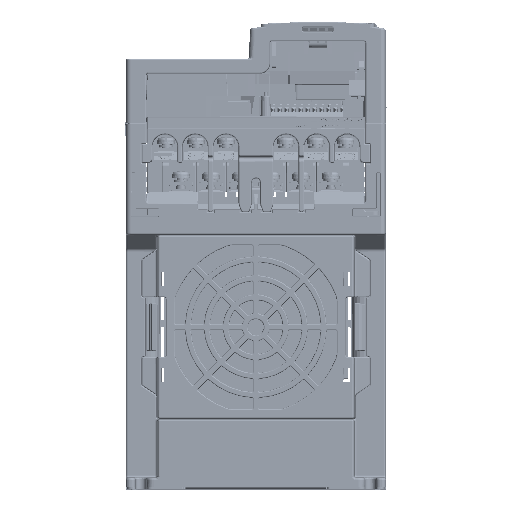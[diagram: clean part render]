
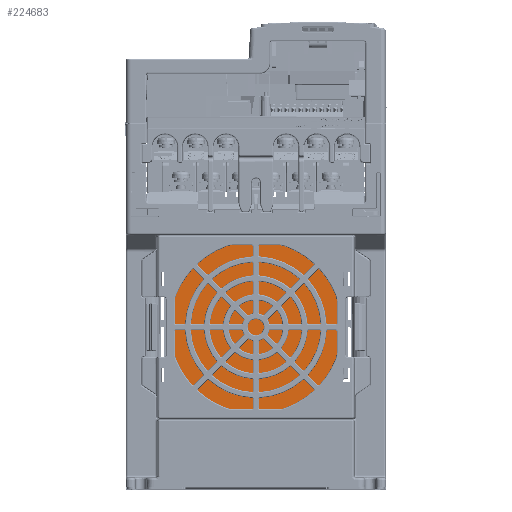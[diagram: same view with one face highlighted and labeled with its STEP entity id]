
A CAD part, top view. The second image highlights one B-rep face of the part: STEP entity #224683.
In plain terms, the highlighted planar face has unit normal (0, 0, 1).
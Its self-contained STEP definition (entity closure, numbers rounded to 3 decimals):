
#213617=DIRECTION('',(-1.,0.,0.));
#213618=VECTOR('',#213617,13.387);
#213619=CARTESIAN_POINT('',(6.693,44.2,19.));
#213620=LINE('',#213619,#213618);
#213641=CARTESIAN_POINT('',(0.,0.,19.));
#213642=DIRECTION('',(0.,0.,-1.));
#213643=DIRECTION('',(0.989,-0.15,0.));
#213644=AXIS2_PLACEMENT_3D('',#213641,#213642,#213643);
#213649=CARTESIAN_POINT('',(0.,0.,19.));
#213650=DIRECTION('',(0.,0.,-1.));
#213651=DIRECTION('',(-0.15,-0.989,0.));
#213652=AXIS2_PLACEMENT_3D('',#213649,#213650,#213651);
#213657=CARTESIAN_POINT('',(0.,0.,19.));
#213658=DIRECTION('',(0.,0.,-1.));
#213659=DIRECTION('',(-0.989,0.15,0.));
#213660=AXIS2_PLACEMENT_3D('',#213657,#213658,#213659);
#213665=CARTESIAN_POINT('',(0.,0.,19.));
#213666=DIRECTION('',(0.,0.,-1.));
#213667=DIRECTION('',(0.15,0.989,0.));
#213668=AXIS2_PLACEMENT_3D('',#213665,#213666,#213667);
#213673=DIRECTION('',(0.,1.,0.));
#213674=VECTOR('',#213673,13.387);
#213675=CARTESIAN_POINT('',(44.2,-6.693,19.));
#213676=LINE('',#213675,#213674);
#213775=DIRECTION('',(1.,0.,0.));
#213776=VECTOR('',#213775,13.387);
#213777=CARTESIAN_POINT('',(-6.693,-44.2,19.));
#213778=LINE('',#213777,#213776);
#213859=DIRECTION('',(0.,-1.,0.));
#213860=VECTOR('',#213859,13.387);
#213861=CARTESIAN_POINT('',(-44.2,6.693,19.));
#213862=LINE('',#213861,#213860);
#221955=CARTESIAN_POINT('',(6.693,44.2,19.));
#221956=CARTESIAN_POINT('',(-6.693,44.2,19.));
#221957=VERTEX_POINT('',#221955);
#221958=VERTEX_POINT('',#221956);
#221963=CARTESIAN_POINT('',(44.2,-6.693,19.));
#221964=CARTESIAN_POINT('',(44.2,6.693,19.));
#221965=VERTEX_POINT('',#221963);
#221966=VERTEX_POINT('',#221964);
#221967=CARTESIAN_POINT('',(6.693,-44.2,19.));
#221968=VERTEX_POINT('',#221967);
#221969=CARTESIAN_POINT('',(-6.693,-44.2,19.));
#221970=VERTEX_POINT('',#221969);
#221971=CARTESIAN_POINT('',(-44.2,-6.693,19.));
#221972=VERTEX_POINT('',#221971);
#221973=CARTESIAN_POINT('',(-44.2,6.693,19.));
#221974=VERTEX_POINT('',#221973);
#224661=CARTESIAN_POINT('',(0.,0.,19.));
#224662=DIRECTION('',(0.,0.,-1.));
#224663=DIRECTION('',(0.,1.,0.));
#224664=AXIS2_PLACEMENT_3D('',#224661,#224662,#224663);
#224665=PLANE('',#224664);
#224667=ORIENTED_EDGE('',*,*,#224666,.F.);
#224669=ORIENTED_EDGE('',*,*,#224668,.T.);
#224671=ORIENTED_EDGE('',*,*,#224670,.F.);
#224673=ORIENTED_EDGE('',*,*,#224672,.T.);
#224675=ORIENTED_EDGE('',*,*,#224674,.F.);
#224677=ORIENTED_EDGE('',*,*,#224676,.T.);
#224678=ORIENTED_EDGE('',*,*,#224644,.F.);
#224680=ORIENTED_EDGE('',*,*,#224679,.T.);
#224681=EDGE_LOOP('',(#224667,#224669,#224671,#224673,#224675,#224677,#224678,
#224680));
#224682=FACE_OUTER_BOUND('',#224681,.F.);
#213645=CIRCLE('',#213644,44.704);
#213653=CIRCLE('',#213652,44.704);
#213661=CIRCLE('',#213660,44.704);
#213669=CIRCLE('',#213668,44.704);
#224644=EDGE_CURVE('',#221957,#221958,#213620,.T.);
#224666=EDGE_CURVE('',#221965,#221966,#213676,.T.);
#224668=EDGE_CURVE('',#221965,#221968,#213645,.T.);
#224670=EDGE_CURVE('',#221970,#221968,#213778,.T.);
#224672=EDGE_CURVE('',#221970,#221972,#213653,.T.);
#224674=EDGE_CURVE('',#221974,#221972,#213862,.T.);
#224676=EDGE_CURVE('',#221974,#221958,#213661,.T.);
#224679=EDGE_CURVE('',#221957,#221966,#213669,.T.);
#224683=ADVANCED_FACE('',(#224682),#224665,.F.);
